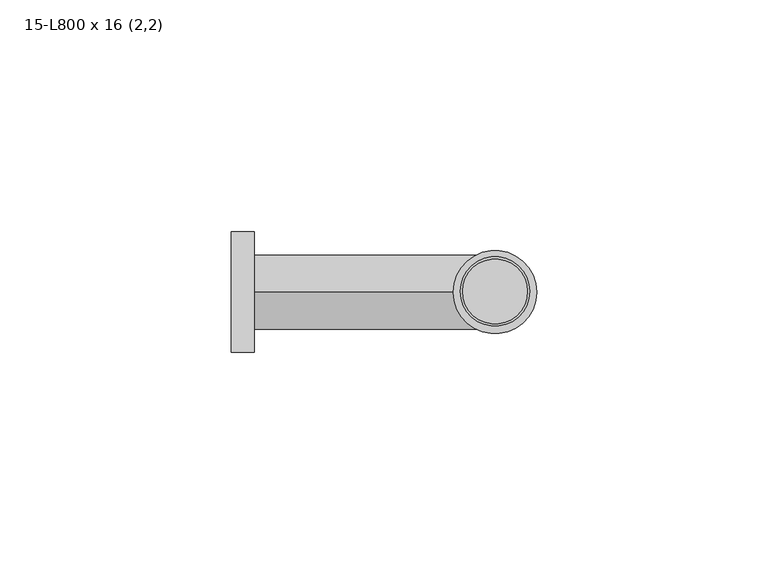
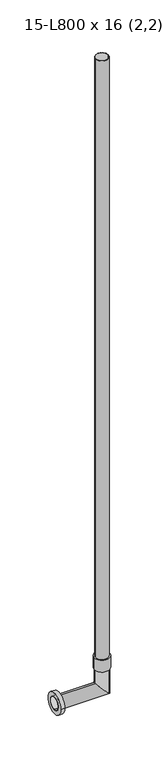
"""IFC4 building model written with IfcOpenShell, lengths in millimetres: pipe fitting geometry, БИР ПЕКС_Трубка приборная_Г-образная : 15-L800 x 16 (2,2)."""

from ifc_helpers import new_model, si_unit, point, frame, origin, origin_2d, place, context, project, spatial, polyline, circle_curve, ellipse_curve, trimmed, segment, composite_curve, outline, extrude, source, transform, mapped, element, save
from ifc_brep_helpers import plane_surface, cylinder_surface, revolved_surface, advanced_brep


def pipe_fitting_15_l800_x_16_2_2_a7591855(model_context):
    return source(origin(), model_context, "Body", "SolidModel", [
        extrude(outline(composite_curve([segment(trimmed(circle_curve(origin_2d(), 7.5), [point((-7.5, 0.0))], [point((7.5, 0.0))], False, "CARTESIAN"), True, "CONTINUOUS"), segment(trimmed(circle_curve(origin_2d(), 7.5), [point((7.5, 0.0))], [point((-7.5, 0.0))], False, "CARTESIAN"), True, "CONTINUOUS")], self_intersect=False), holes=[composite_curve([segment(trimmed(circle_curve(origin_2d(), 7.0), [point((-7.0, 0.0))], [point((7.0, 0.0))], True, "CARTESIAN"), True, "CONTINUOUS"), segment(trimmed(circle_curve(origin_2d(), 7.0), [point((7.0, 0.0))], [point((-7.0, 0.0))], True, "CARTESIAN"), True, "CONTINUOUS")], self_intersect=False)]), frame((0.0, 0.0, 41.0), z_axis=(0.0, 0.0, 1.0), x_axis=(1.0, 0.0, 0.0)), (0.0, 0.0, 1.0), 759.0),
        extrude(outline(composite_curve([segment(trimmed(circle_curve(origin_2d(), 9.0), [point((-9.0, 0.0))], [point((9.0, 0.0))], False, "CARTESIAN"), True, "CONTINUOUS"), segment(trimmed(circle_curve(origin_2d(), 9.0), [point((9.0, 0.0))], [point((-9.0, 0.0))], False, "CARTESIAN"), True, "CONTINUOUS")], self_intersect=False)), frame((0.0, 0.0, 26.0), z_axis=(0.0, 0.0, 1.0), x_axis=(1.0, 0.0, 0.0)), (0.0, 0.0, 1.0), 15.0),
        extrude(outline(composite_curve([segment(trimmed(circle_curve(origin_2d(), 13.0), [point((-13.0, 0.0))], [point((13.0, 0.0))], False, "CARTESIAN"), True, "CONTINUOUS"), segment(trimmed(circle_curve(origin_2d(), 13.0), [point((13.0, 0.0))], [point((-13.0, 0.0))], False, "CARTESIAN"), True, "CONTINUOUS")], self_intersect=False), holes=[composite_curve([segment(trimmed(circle_curve(origin_2d(), 8.0), [point((-8.0, 0.0))], [point((8.0, 0.0))], True, "CARTESIAN"), True, "CONTINUOUS"), segment(trimmed(circle_curve(origin_2d(), 8.0), [point((8.0, 0.0))], [point((-8.0, 0.0))], True, "CARTESIAN"), True, "CONTINUOUS")], self_intersect=False)]), frame((-57.0, 0.0, 0.0), z_axis=(1.0, 0.0, 0.0), x_axis=(0.0, 1.0, 0.0)), (0.0, 0.0, 1.0), 5.0),
        advanced_brep(
        [(-57.0, 0.0, -8.0), (-57.0, 0.0, 8.0), (-57.0, 0.0, -7.5), (-57.0, 0.0, 7.5), (8.0, 0.0, -8.0), (-8.0, 0.0, 8.0), (8.0, 0.0, 26.0), (-8.0, 0.0, 26.0), (7.5, 0.0, 26.0), (-7.5, 0.0, 26.0), (7.5, 0.0, -7.5), (-7.5, 0.0, 7.5)],
        [
            (0, 1, circle_curve(frame((-57.0, 0.0, 0.0), z_axis=(-1.0, 0.0, 0.0), x_axis=(0.0, 0.0, 1.0)), 8.0)),
            (1, 0, circle_curve(frame((-57.0, 0.0, 0.0), z_axis=(-1.0, 0.0, 0.0), x_axis=(0.0, 0.0, 1.0)), 8.0)),
            (2, 3, circle_curve(frame((-57.0, 0.0, 0.0), z_axis=(1.0, 0.0, 0.0), x_axis=(0.0, 0.0, 1.0)), 7.5)),
            (3, 2, circle_curve(frame((-57.0, 0.0, 0.0), z_axis=(1.0, 0.0, 0.0), x_axis=(0.0, 0.0, 1.0)), 7.5)),
            (0, 4),
            (4, 5, ellipse_curve(frame((0.0, 0.0, 0.0), z_axis=(-0.7071067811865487, 0.0, -0.7071067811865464), x_axis=(-0.7071067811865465, 0.0, 0.7071067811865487)), 11.3137085, 8.0)),
            (5, 1),
            (5, 4, ellipse_curve(frame((0.0, 0.0, 0.0), z_axis=(-0.7071067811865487, 0.0, -0.7071067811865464), x_axis=(-0.7071067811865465, 0.0, 0.7071067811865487)), 11.3137085, 8.0)),
            (6, 7, circle_curve(frame((0.0, 0.0, 26.0), z_axis=(0.0, 0.0, 1.0), x_axis=(-1.0, 0.0, 0.0)), 8.0)),
            (7, 6, circle_curve(frame((0.0, 0.0, 26.0), z_axis=(0.0, 0.0, 1.0), x_axis=(-1.0, 0.0, 0.0)), 8.0)),
            (8, 9, circle_curve(frame((0.0, 0.0, 26.0), z_axis=(0.0, 0.0, -1.0), x_axis=(-1.0, 0.0, 0.0)), 7.5)),
            (9, 8, circle_curve(frame((0.0, 0.0, 26.0), z_axis=(0.0, 0.0, -1.0), x_axis=(-1.0, 0.0, 0.0)), 7.5)),
            (4, 6),
            (7, 5),
            (2, 10),
            (10, 11, ellipse_curve(frame((0.0, 0.0, 0.0), z_axis=(0.7071067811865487, 0.0, 0.7071067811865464), x_axis=(0.7071067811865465, 0.0, -0.7071067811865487)), 10.6066017, 7.5)),
            (11, 3),
            (11, 10, ellipse_curve(frame((0.0, 0.0, 0.0), z_axis=(0.7071067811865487, 0.0, 0.7071067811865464), x_axis=(0.7071067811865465, 0.0, -0.7071067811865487)), 10.6066017, 7.5)),
            (10, 8),
            (9, 11),
        ],
        [
            plane_surface(frame((-57.0, 0.0, 0.0), z_axis=(-1.0, 0.0, 0.0), x_axis=(0.0, -1.0, 0.0))),
            cylinder_surface(frame((-57.0, 0.0, 0.0), z_axis=(-1.0, 0.0, 0.0), x_axis=(0.0, 0.0, 1.0)), 8.0),
            plane_surface(frame((0.0, 0.0, 26.0), z_axis=(0.0, 0.0, 1.0), x_axis=(0.0, -1.0, 0.0))),
            cylinder_surface(frame((0.0, 0.0, 0.0), z_axis=(0.0, 0.0, -1.0), x_axis=(-1.0, 0.0, 0.0)), 8.0),
            revolved_surface(polyline([(7.5, 0.0, 7.5), (-57.0, 0.0, 7.5)]), (-57.0, 0.0, 0.0), (1.0, 0.0, 0.0)),
            revolved_surface(polyline([(-7.5, 0.0, 26.0), (-7.5, 0.0, -7.5)]), (0.0, 0.0, 0.0), (0.0, 0.0, 1.0)),
        ],
        [
            (0, [[1, 2], [3, 4]]),
            (1, [[-1, 5, 6, 7]]),
            (1, [[-2, -7, 8, -5]]),
            (2, [[9, 10], [11, 12]]),
            (3, [[-6, 13, -10, 14]]),
            (3, [[-8, -14, -9, -13]]),
            (4, [[-3, 15, 16, 17]]),
            (4, [[-4, -17, 18, -15]]),
            (5, [[-16, 19, -12, 20]]),
            (5, [[-18, -20, -11, -19]]),
        ],
    ),
    ])


if __name__ == "__main__":
    model = new_model("IFC4")
    model_context = context("Model", 3, world=origin())
    ifc_project = project(units=[si_unit("LENGTHUNIT", "METRE", prefix="MILLI")], contexts=[model_context])
    site = spatial("IfcSite", under=ifc_project)
    building = spatial("IfcBuilding", under=site)
    placement = place(None, origin())
    pipe_fitting_15_l800_x_16_2_2_shape = pipe_fitting_15_l800_x_16_2_2_a7591855(model_context)
    element("IfcPipeFitting", 1, ObjectType="БИР ПЕКС_Трубка приборная_Г-образная : 15-L800 x 16 (2,2)", at=placement, inside=building, context=model_context, shape_type="MappedRepresentation", body=[
        mapped(pipe_fitting_15_l800_x_16_2_2_shape, transform((0.0, 0.0, 0.0), x_axis=(1.0, 0.0, 0.0), y_axis=(0.0, 1.0, 0.0), z_axis=(0.0, 0.0, 1.0))),
    ])
    save(model, "model.ifc")
